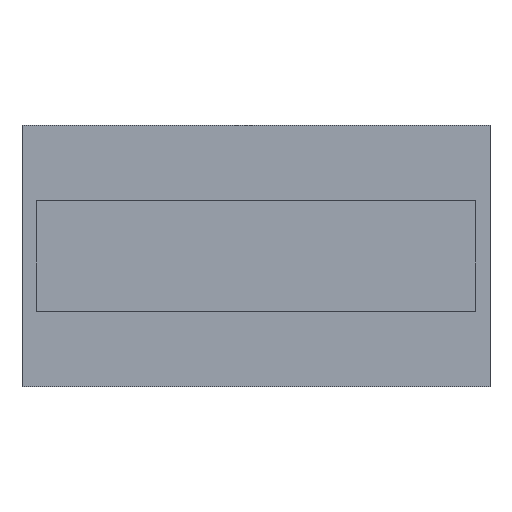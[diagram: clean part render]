
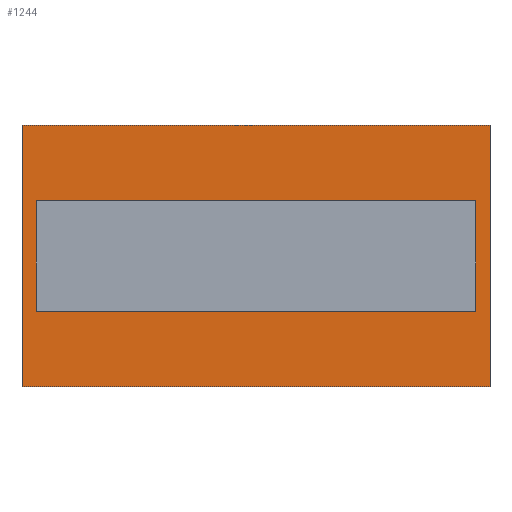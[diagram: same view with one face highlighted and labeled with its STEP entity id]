
A CAD part, top view. The second image highlights one B-rep face of the part: STEP entity #1244.
In plain terms, the highlighted planar face has unit normal (0, 0, 1).
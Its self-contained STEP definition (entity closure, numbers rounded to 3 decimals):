
#28 = DIRECTION ( 'NONE',  ( 1., 0., 0. ) ) ;
#30 = VECTOR ( 'NONE', #566, 1000. ) ;
#60 = LINE ( 'NONE', #1322, #30 ) ;
#73 = LINE ( 'NONE', #1377, #293 ) ;
#82 = CARTESIAN_POINT ( 'NONE',  ( 3.19, 0.805, 0. ) ) ;
#91 = VERTEX_POINT ( 'NONE', #1471 ) ;
#147 = DIRECTION ( 'NONE',  ( 1., 0., 0. ) ) ;
#171 = VECTOR ( 'NONE', #1517, 1000. ) ;
#173 = VECTOR ( 'NONE', #603, 1000. ) ;
#265 = VERTEX_POINT ( 'NONE', #438 ) ;
#269 = DIRECTION ( 'NONE',  ( 0., 0., 1. ) ) ;
#291 = FACE_BOUND ( 'NONE', #1409, .T. ) ;
#292 = VERTEX_POINT ( 'NONE', #82 ) ;
#293 = VECTOR ( 'NONE', #1362, 1000. ) ;
#302 = ORIENTED_EDGE ( 'NONE', *, *, #596, .F. ) ;
#310 = EDGE_CURVE ( 'NONE', #594, #1372, #60, .T. ) ;
#418 = ORIENTED_EDGE ( 'NONE', *, *, #1393, .F. ) ;
#420 = VECTOR ( 'NONE', #28, 1000. ) ;
#438 = CARTESIAN_POINT ( 'NONE',  ( -3.19, -0.805, 0. ) ) ;
#459 = EDGE_LOOP ( 'NONE', ( #1287, #1241, #418, #1153 ) ) ;
#480 = ORIENTED_EDGE ( 'NONE', *, *, #1160, .F. ) ;
#485 = EDGE_CURVE ( 'NONE', #1198, #91, #73, .T. ) ;
#500 = CARTESIAN_POINT ( 'NONE',  ( 3.4, -1.9, 0. ) ) ;
#509 = CARTESIAN_POINT ( 'NONE',  ( -3.19, 0.805, 0. ) ) ;
#566 = DIRECTION ( 'NONE',  ( 1., 0., 0. ) ) ;
#594 = VERTEX_POINT ( 'NONE', #690 ) ;
#596 = EDGE_CURVE ( 'NONE', #292, #1235, #932, .T. ) ;
#603 = DIRECTION ( 'NONE',  ( 0., -1., 0. ) ) ;
#626 = CARTESIAN_POINT ( 'NONE',  ( 3.4, -1.9, 0. ) ) ;
#689 = VERTEX_POINT ( 'NONE', #1061 ) ;
#690 = CARTESIAN_POINT ( 'NONE',  ( -3.4, 1.9, 0. ) ) ;
#710 = AXIS2_PLACEMENT_3D ( 'NONE', #1262, #269, #147 ) ;
#761 = DIRECTION ( 'NONE',  ( 0., 1., 0. ) ) ;
#773 = DIRECTION ( 'NONE',  ( 0., -1., 0. ) ) ;
#877 = FACE_OUTER_BOUND ( 'NONE', #459, .T. ) ;
#887 = ORIENTED_EDGE ( 'NONE', *, *, #1100, .F. ) ;
#891 = ORIENTED_EDGE ( 'NONE', *, *, #1258, .F. ) ;
#913 = CARTESIAN_POINT ( 'NONE',  ( 3.4, 1.9, 0. ) ) ;
#930 = CARTESIAN_POINT ( 'NONE',  ( -3.19, 0.805, 0. ) ) ;
#932 = LINE ( 'NONE', #930, #1542 ) ;
#981 = PLANE ( 'NONE',  #710 ) ;
#1022 = CARTESIAN_POINT ( 'NONE',  ( -3.19, -0.805, 0. ) ) ;
#1061 = CARTESIAN_POINT ( 'NONE',  ( 3.19, -0.805, 0. ) ) ;
#1074 = DIRECTION ( 'NONE',  ( -1., 0., 0. ) ) ;
#1098 = LINE ( 'NONE', #1373, #171 ) ;
#1100 = EDGE_CURVE ( 'NONE', #1235, #265, #1424, .T. ) ;
#1109 = EDGE_CURVE ( 'NONE', #91, #594, #1163, .T. ) ;
#1153 = ORIENTED_EDGE ( 'NONE', *, *, #310, .F. ) ;
#1160 = EDGE_CURVE ( 'NONE', #689, #292, #1098, .T. ) ;
#1163 = LINE ( 'NONE', #1285, #1297 ) ;
#1198 = VERTEX_POINT ( 'NONE', #626 ) ;
#1235 = VERTEX_POINT ( 'NONE', #509 ) ;
#1241 = ORIENTED_EDGE ( 'NONE', *, *, #485, .F. ) ;
#1244 = ADVANCED_FACE ( 'NONE', ( #877, #291 ), #981, .T. ) ;
#1248 = CARTESIAN_POINT ( 'NONE',  ( -3.19, -0.805, 0. ) ) ;
#1258 = EDGE_CURVE ( 'NONE', #265, #689, #1335, .T. ) ;
#1262 = CARTESIAN_POINT ( 'NONE',  ( 0., 0., 0. ) ) ;
#1263 = VECTOR ( 'NONE', #773, 1000. ) ;
#1285 = CARTESIAN_POINT ( 'NONE',  ( -3.4, -1.9, 0. ) ) ;
#1287 = ORIENTED_EDGE ( 'NONE', *, *, #1109, .F. ) ;
#1297 = VECTOR ( 'NONE', #761, 1000. ) ;
#1322 = CARTESIAN_POINT ( 'NONE',  ( 3.4, 1.9, 0. ) ) ;
#1335 = LINE ( 'NONE', #1248, #420 ) ;
#1362 = DIRECTION ( 'NONE',  ( -1., 0., 0. ) ) ;
#1372 = VERTEX_POINT ( 'NONE', #913 ) ;
#1373 = CARTESIAN_POINT ( 'NONE',  ( 3.19, -0.805, 0. ) ) ;
#1377 = CARTESIAN_POINT ( 'NONE',  ( 3.4, -1.9, 0. ) ) ;
#1393 = EDGE_CURVE ( 'NONE', #1372, #1198, #1509, .T. ) ;
#1409 = EDGE_LOOP ( 'NONE', ( #480, #891, #887, #302 ) ) ;
#1424 = LINE ( 'NONE', #1022, #1263 ) ;
#1471 = CARTESIAN_POINT ( 'NONE',  ( -3.4, -1.9, 0. ) ) ;
#1509 = LINE ( 'NONE', #500, #173 ) ;
#1517 = DIRECTION ( 'NONE',  ( 0., 1., 0. ) ) ;
#1542 = VECTOR ( 'NONE', #1074, 1000. ) ;
